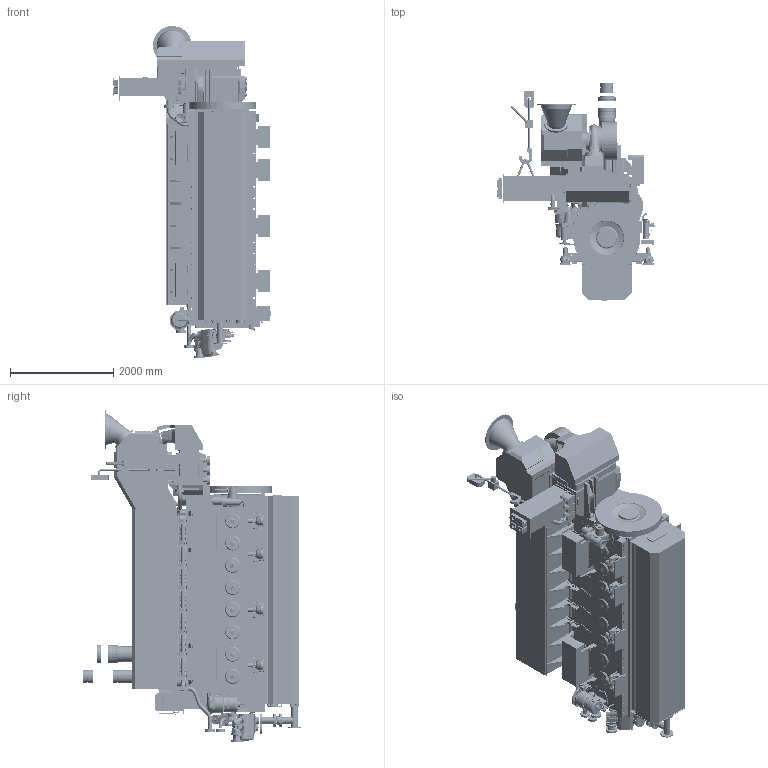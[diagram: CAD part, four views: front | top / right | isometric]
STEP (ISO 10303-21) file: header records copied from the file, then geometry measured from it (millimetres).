
FILE_DESCRIPTION((''),'2;1');
FILE_NAME('8M25E_FWS_STP_ASM','2015-11-17T',('frickbd'),('Caterpillar Motoren GmbH & Co.KG'),'PRO/ENGINEER BY PARAMETRIC TECHNOLOGY CORPORATION, 2014200','PRO/ENGINEER BY PARAMETRIC TECHNOLOGY CORPORATION, 2014200','');
FILE_SCHEMA(('CONFIG_CONTROL_DESIGN'));
Products named in the file (6): 8M25E_FWS_STP_REMOV_SPACE_P01; 8M25E_FWS_STP_RESIL_MOUNT_P01; 8M25E_FWS_STP_DRY_SUMP_P01; 8M25E_FWS_STP_ENGINE_P01; 8M25E_FWS_STP_WET_SUMP_P01; 8M25E_FWS_STP_ASM
Assembly tree (5 placements, depth 2):
  8M25E_FWS_STP_ASM
    8M25E_FWS_STP_REMOV_SPACE_P01
    8M25E_FWS_STP_RESIL_MOUNT_P01
    8M25E_FWS_STP_DRY_SUMP_P01
    8M25E_FWS_STP_ENGINE_P01
    8M25E_FWS_STP_WET_SUMP_P01
Bounding box: 3067.97 x 4216 x 6425.69 mm (x, y, z)
Surface area: 141619252.2 mm2 (no closed solid volume)
Topology: 0 solids, 435 shells, 4885 faces, 19196 edges, 14350 vertices
Faces by surface type: plane 2587, cylinder 1654, cone 230, bspline 211, torus 169, sphere 32, extrusion 2
Entity records: 256466 total; most frequent: CARTESIAN_POINT 77138, DIRECTION 33277, ORIENTED_EDGE 28873, EDGE_CURVE 19170, VERTEX_POINT 14352, VECTOR 11573, LINE 11571, AXIS2_PLACEMENT_3D 10852
